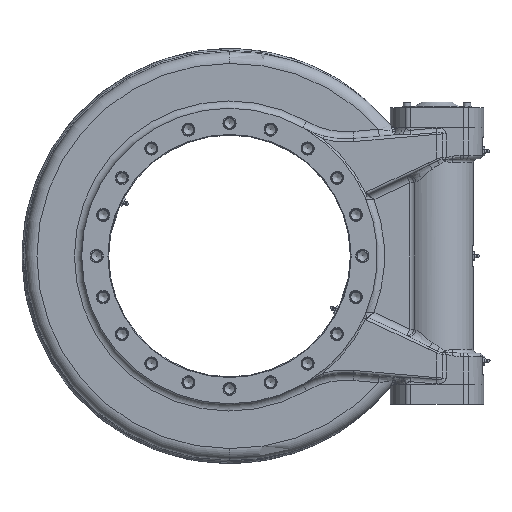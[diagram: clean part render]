
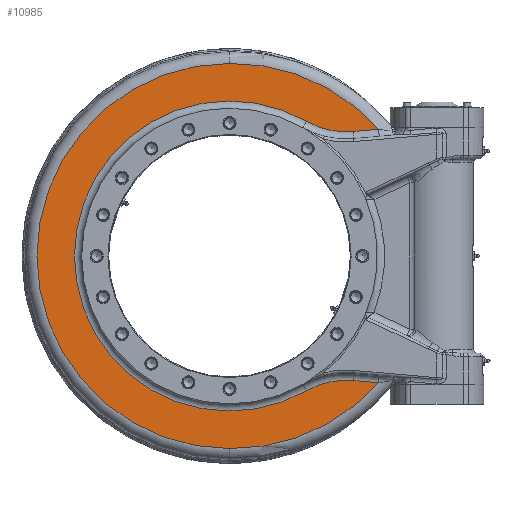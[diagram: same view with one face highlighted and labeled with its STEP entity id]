
A CAD part, left-side view. The second image highlights one B-rep face of the part: STEP entity #10985.
In plain terms, the highlighted planar face has unit normal (-1, 0, 0).
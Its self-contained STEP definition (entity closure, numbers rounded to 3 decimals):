
#282 = CARTESIAN_POINT ( 'NONE',  ( -37., 115.505, 171.058 ) ) ;
#429 = AXIS2_PLACEMENT_3D ( 'NONE', #8443, #25190, #29307 ) ;
#637 = DIRECTION ( 'NONE',  ( 0., 0., 1. ) ) ;
#1178 = CARTESIAN_POINT ( 'NONE',  ( -37., 125.092, -280.639 ) ) ;
#1207 = EDGE_CURVE ( 'NONE', #31665, #45468, #24965, .T. ) ;
#1390 = DIRECTION ( 'NONE',  ( -1., 0., 0. ) ) ;
#3088 = CARTESIAN_POINT ( 'NONE',  ( -37., 115.505, -171.058 ) ) ;
#3352 = DIRECTION ( 'NONE',  ( 0., 0., 1. ) ) ;
#5138 = FACE_OUTER_BOUND ( 'NONE', #23217, .T. ) ;
#6450 = ORIENTED_EDGE ( 'NONE', *, *, #50258, .T. ) ;
#8443 = CARTESIAN_POINT ( 'NONE',  ( -37., 285., 0. ) ) ;
#10985 = ADVANCED_FACE ( 'NONE', ( #5138 ), #23179, .T. ) ;
#12304 = CIRCLE ( 'NONE', #429, 213. ) ;
#12823 = AXIS2_PLACEMENT_3D ( 'NONE', #36413, #16221, #44491 ) ;
#13844 = DIRECTION ( 'NONE',  ( 0., 0., 1. ) ) ;
#15016 = CIRCLE ( 'NONE', #47195, 269. ) ;
#15335 = DIRECTION ( 'NONE',  ( 0., 0.996, 0.087 ) ) ;
#15422 = CARTESIAN_POINT ( 'NONE',  ( -37., 281.474, 4.478 ) ) ;
#15759 = DIRECTION ( 'NONE',  ( -1., 0., 0. ) ) ;
#16017 = VERTEX_POINT ( 'NONE', #41118 ) ;
#16221 = DIRECTION ( 'NONE',  ( -1., 0., 0. ) ) ;
#16791 = CARTESIAN_POINT ( 'NONE',  ( -37., 80.332, -174.135 ) ) ;
#17100 = EDGE_CURVE ( 'NONE', #25410, #34332, #12304, .T. ) ;
#17703 = VECTOR ( 'NONE', #15335, 1000. ) ;
#17937 = CARTESIAN_POINT ( 'NONE',  ( -37., 125.092, 280.639 ) ) ;
#18029 = EDGE_CURVE ( 'NONE', #20980, #25410, #51493, .T. ) ;
#19817 = CIRCLE ( 'NONE', #12823, 264.5 ) ;
#20396 = ORIENTED_EDGE ( 'NONE', *, *, #38826, .T. ) ;
#20980 = VERTEX_POINT ( 'NONE', #50976 ) ;
#23179 = PLANE ( 'NONE',  #33851 ) ;
#23217 = EDGE_LOOP ( 'NONE', ( #50205, #52574, #42585, #33102, #6450, #42495, #34779, #20396 ) ) ;
#23517 = DIRECTION ( 'NONE',  ( -1., 0., 0. ) ) ;
#24617 = AXIS2_PLACEMENT_3D ( 'NONE', #17937, #1390, #13844 ) ;
#24965 = LINE ( 'NONE', #30248, #33958 ) ;
#25008 = DIRECTION ( 'NONE',  ( -1., 0., 0. ) ) ;
#25190 = DIRECTION ( 'NONE',  ( 1., 0., 0. ) ) ;
#25410 = VERTEX_POINT ( 'NONE', #36266 ) ;
#25960 = DIRECTION ( 'NONE',  ( 0., -0.996, 0.087 ) ) ;
#26096 = AXIS2_PLACEMENT_3D ( 'NONE', #1178, #25008, #637 ) ;
#28508 = LINE ( 'NONE', #3088, #17703 ) ;
#28635 = DIRECTION ( 'NONE',  ( -1., 0., 0. ) ) ;
#29307 = DIRECTION ( 'NONE',  ( 0., 0., 1. ) ) ;
#29635 = CARTESIAN_POINT ( 'NONE',  ( -37., 80.332, 174.135 ) ) ;
#30248 = CARTESIAN_POINT ( 'NONE',  ( -37., 73.278, 174.752 ) ) ;
#30885 = VERTEX_POINT ( 'NONE', #43588 ) ;
#30975 = EDGE_CURVE ( 'NONE', #45468, #30885, #36362, .T. ) ;
#31665 = VERTEX_POINT ( 'NONE', #282 ) ;
#33102 = ORIENTED_EDGE ( 'NONE', *, *, #17100, .T. ) ;
#33851 = AXIS2_PLACEMENT_3D ( 'NONE', #51852, #23517, #47557 ) ;
#33958 = VECTOR ( 'NONE', #25960, 1000. ) ;
#34332 = VERTEX_POINT ( 'NONE', #36939 ) ;
#34779 = ORIENTED_EDGE ( 'NONE', *, *, #30975, .T. ) ;
#36266 = CARTESIAN_POINT ( 'NONE',  ( -37., 179.55, -185.066 ) ) ;
#36362 = CIRCLE ( 'NONE', #43064, 269. ) ;
#36413 = CARTESIAN_POINT ( 'NONE',  ( -37., 285., 0. ) ) ;
#36939 = CARTESIAN_POINT ( 'NONE',  ( -37., 179.55, 185.066 ) ) ;
#38826 = EDGE_CURVE ( 'NONE', #30885, #16017, #19817, .T. ) ;
#40511 = CARTESIAN_POINT ( 'NONE',  ( -37., 281.474, -4.478 ) ) ;
#40890 = EDGE_CURVE ( 'NONE', #16017, #41469, #15016, .T. ) ;
#41118 = CARTESIAN_POINT ( 'NONE',  ( -37., 284.901, -264.5 ) ) ;
#41469 = VERTEX_POINT ( 'NONE', #16791 ) ;
#42495 = ORIENTED_EDGE ( 'NONE', *, *, #1207, .T. ) ;
#42585 = ORIENTED_EDGE ( 'NONE', *, *, #18029, .T. ) ;
#43064 = AXIS2_PLACEMENT_3D ( 'NONE', #40511, #28635, #48747 ) ;
#43326 = EDGE_CURVE ( 'NONE', #41469, #20980, #28508, .T. ) ;
#43588 = CARTESIAN_POINT ( 'NONE',  ( -37., 284.901, 264.5 ) ) ;
#44491 = DIRECTION ( 'NONE',  ( 0., 0., 1. ) ) ;
#45468 = VERTEX_POINT ( 'NONE', #29635 ) ;
#47195 = AXIS2_PLACEMENT_3D ( 'NONE', #15422, #15759, #3352 ) ;
#47557 = DIRECTION ( 'NONE',  ( 0., 0., 1. ) ) ;
#48747 = DIRECTION ( 'NONE',  ( 0., 0., 1. ) ) ;
#50205 = ORIENTED_EDGE ( 'NONE', *, *, #40890, .T. ) ;
#50221 = CIRCLE ( 'NONE', #24617, 110. ) ;
#50258 = EDGE_CURVE ( 'NONE', #34332, #31665, #50221, .T. ) ;
#50976 = CARTESIAN_POINT ( 'NONE',  ( -37., 115.505, -171.058 ) ) ;
#51493 = CIRCLE ( 'NONE', #26096, 110. ) ;
#51852 = CARTESIAN_POINT ( 'NONE',  ( -37., 283.237, -2.239 ) ) ;
#52574 = ORIENTED_EDGE ( 'NONE', *, *, #43326, .T. ) ;
